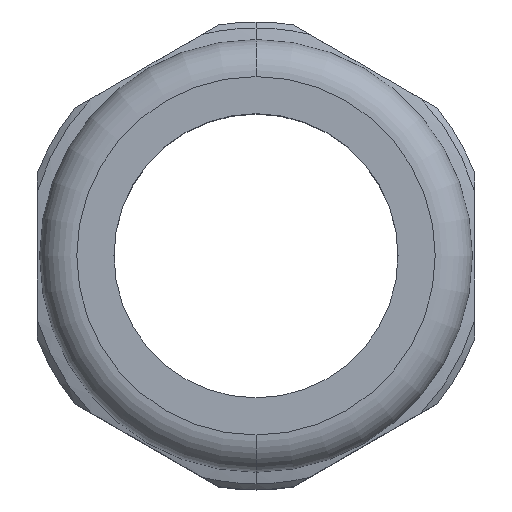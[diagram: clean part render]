
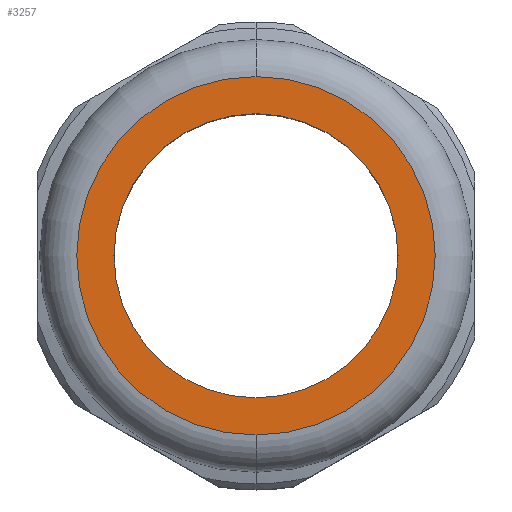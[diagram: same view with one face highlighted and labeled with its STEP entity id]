
A CAD part, top view. The second image highlights one B-rep face of the part: STEP entity #3257.
In plain terms, the highlighted planar face has unit normal (0, 0, 1).
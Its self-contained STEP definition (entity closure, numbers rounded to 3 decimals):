
#526 = EDGE_CURVE ( 'NONE', #527, #528, #1656, .T. ) ;
#527 = VERTEX_POINT ( 'NONE', #1652 ) ;
#528 = VERTEX_POINT ( 'NONE', #1651 ) ;
#1127 = EDGE_CURVE ( 'NONE', #1128, #1129, #1935, .T. ) ;
#1128 = VERTEX_POINT ( 'NONE', #1967 ) ;
#1129 = VERTEX_POINT ( 'NONE', #1966 ) ;
#1651 = CARTESIAN_POINT ( 'NONE',  ( 0., 32.5, 60.5 ) ) ;
#1652 = CARTESIAN_POINT ( 'NONE',  ( 0., -32.5, 60.5 ) ) ;
#1653 = DIRECTION ( 'NONE',  ( 0., 1., 0. ) ) ;
#1654 = DIRECTION ( 'NONE',  ( 0., 0., -1. ) ) ;
#1655 = AXIS2_PLACEMENT_3D ( 'NONE', #1662, #1654, #1653 ) ;
#1656 = CIRCLE ( 'NONE', #1655, 32.5 ) ;
#1662 = CARTESIAN_POINT ( 'NONE',  ( 0., 0., 60.5 ) ) ;
#1935 = CIRCLE ( 'NONE', #1971, 41. ) ;
#1966 = CARTESIAN_POINT ( 'NONE',  ( 0., -41., 60.5 ) ) ;
#1967 = CARTESIAN_POINT ( 'NONE',  ( 0., 41., 60.5 ) ) ;
#1968 = DIRECTION ( 'NONE',  ( 0., 1., 0. ) ) ;
#1969 = DIRECTION ( 'NONE',  ( 0., 0., -1. ) ) ;
#1970 = CARTESIAN_POINT ( 'NONE',  ( 0., 0., 60.5 ) ) ;
#1971 = AXIS2_PLACEMENT_3D ( 'NONE', #1970, #1969, #1968 ) ;
#2155 = DIRECTION ( 'NONE',  ( 0., -1., 0. ) ) ;
#2156 = DIRECTION ( 'NONE',  ( 0., 0., 1. ) ) ;
#2157 = CARTESIAN_POINT ( 'NONE',  ( 0., 41., 60.5 ) ) ;
#2368 = AXIS2_PLACEMENT_3D ( 'NONE', #2157, #2156, #2155 ) ;
#2374 = PLANE ( 'NONE',  #2368 ) ;
#2375 = FACE_OUTER_BOUND ( 'NONE', #3281, .T. ) ;
#2376 = FACE_BOUND ( 'NONE', #3277, .T. ) ;
#2481 = DIRECTION ( 'NONE',  ( 0., 0., -1. ) ) ;
#2482 = AXIS2_PLACEMENT_3D ( 'NONE', #2546, #2481, #2550 ) ;
#2483 = CIRCLE ( 'NONE', #2482, 41. ) ;
#2503 = DIRECTION ( 'NONE',  ( 0., 1., 0. ) ) ;
#2504 = DIRECTION ( 'NONE',  ( 0., 0., -1. ) ) ;
#2505 = AXIS2_PLACEMENT_3D ( 'NONE', #2523, #2504, #2503 ) ;
#2523 = CARTESIAN_POINT ( 'NONE',  ( 0., 0., 60.5 ) ) ;
#2546 = CARTESIAN_POINT ( 'NONE',  ( 0., 0., 60.5 ) ) ;
#2550 = DIRECTION ( 'NONE',  ( 0., 1., 0. ) ) ;
#2574 = CIRCLE ( 'NONE', #2505, 32.5 ) ;
#3257 = ADVANCED_FACE ( 'NONE', ( #2376, #2375 ), #2374, .T. ) ;
#3277 = EDGE_LOOP ( 'NONE', ( #3278, #3280 ) ) ;
#3278 = ORIENTED_EDGE ( 'NONE', *, *, #3279, .T. ) ;
#3279 = EDGE_CURVE ( 'NONE', #528, #527, #2574, .T. ) ;
#3280 = ORIENTED_EDGE ( 'NONE', *, *, #526, .T. ) ;
#3281 = EDGE_LOOP ( 'NONE', ( #3290, #3291 ) ) ;
#3290 = ORIENTED_EDGE ( 'NONE', *, *, #1127, .F. ) ;
#3291 = ORIENTED_EDGE ( 'NONE', *, *, #3292, .F. ) ;
#3292 = EDGE_CURVE ( 'NONE', #1129, #1128, #2483, .T. ) ;
